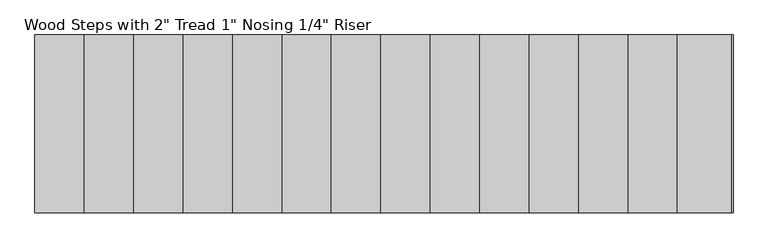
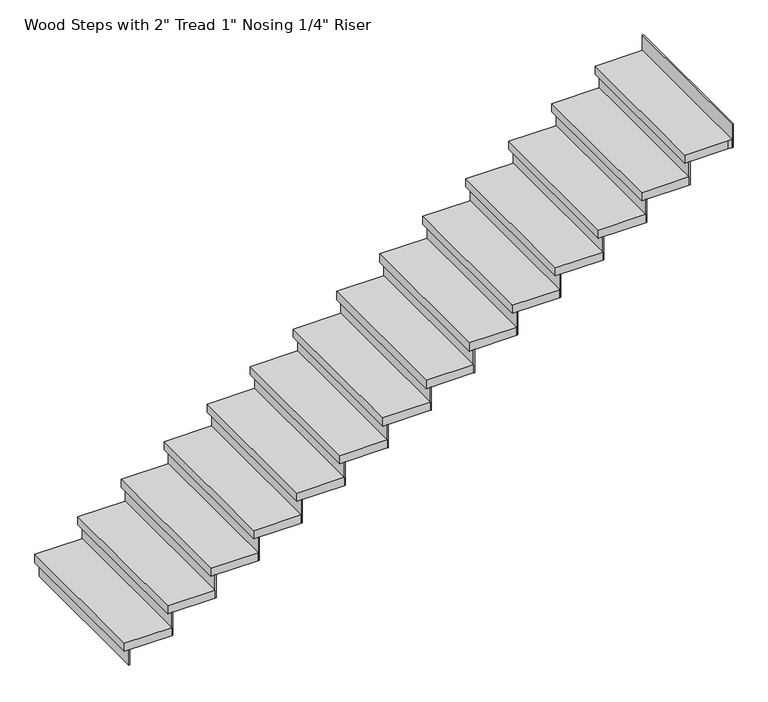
"""IFC4 building model written with IfcOpenShell, lengths in millimetres: stair flight geometry."""

from ifc_helpers import new_model, si_unit, frame, origin, origin_with_axes, place, context, project, spatial, polyline, outline, extrude, source, transform, mapped, element, save


def stair_flight_5bed9c42(model_context):
    return source(origin(), model_context, "Body", "SweptSolid", [
        extrude(outline(polyline([(-23935.3186345, 31477.9025717), (-23941.6686345, 31477.9025717), (-23941.6686345, 32392.3025717), (-23935.3186345, 32392.3025717), (-23935.3186345, 31477.9025717)])), origin_with_axes(), (0.0, 0.0, 1.0), 94.3428571),
        extrude(outline(polyline([(-23687.6686345, 32392.3025717), (-23687.6686345, 31477.9025717), (-23967.0686345, 31477.9025717), (-23967.0686345, 32392.3025717), (-23687.6686345, 32392.3025717)])), frame((0.0, 0.0, 94.3428571), z_axis=(0.0, 0.0, 1.0), x_axis=(1.0, 0.0, 0.0)), (0.0, 0.0, 1.0), 50.8),
        extrude(outline(polyline([(-23681.3186345, 31477.9025717), (-23687.6686345, 31477.9025717), (-23687.6686345, 32392.3025717), (-23681.3186345, 32392.3025717), (-23681.3186345, 31477.9025717)])), frame((0.0, 0.0, 94.3428571), z_axis=(0.0, 0.0, 1.0), x_axis=(1.0, 0.0, 0.0)), (0.0, 0.0, 1.0), 145.1428571),
        extrude(outline(polyline([(-23433.6686345, 32392.3025717), (-23433.6686345, 31477.9025717), (-23713.0686345, 31477.9025717), (-23713.0686345, 32392.3025717), (-23433.6686345, 32392.3025717)])), frame((0.0, 0.0, 239.4857143), z_axis=(0.0, 0.0, 1.0), x_axis=(1.0, 0.0, 0.0)), (0.0, 0.0, 1.0), 50.8),
        extrude(outline(polyline([(-23427.3186345, 31477.9025717), (-23433.6686345, 31477.9025717), (-23433.6686345, 32392.3025717), (-23427.3186345, 32392.3025717), (-23427.3186345, 31477.9025717)])), frame((0.0, 0.0, 239.4857143), z_axis=(0.0, 0.0, 1.0), x_axis=(1.0, 0.0, 0.0)), (0.0, 0.0, 1.0), 145.1428571),
        extrude(outline(polyline([(-23179.6686345, 32392.3025717), (-23179.6686345, 31477.9025717), (-23459.0686345, 31477.9025717), (-23459.0686345, 32392.3025717), (-23179.6686345, 32392.3025717)])), frame((0.0, 0.0, 384.6285714), z_axis=(0.0, 0.0, 1.0), x_axis=(1.0, 0.0, 0.0)), (0.0, 0.0, 1.0), 50.8),
        extrude(outline(polyline([(-23173.3186345, 31477.9025717), (-23179.6686345, 31477.9025717), (-23179.6686345, 32392.3025717), (-23173.3186345, 32392.3025717), (-23173.3186345, 31477.9025717)])), frame((0.0, 0.0, 384.6285714), z_axis=(0.0, 0.0, 1.0), x_axis=(1.0, 0.0, 0.0)), (0.0, 0.0, 1.0), 145.1428571),
        extrude(outline(polyline([(-22925.6686345, 32392.3025717), (-22925.6686345, 31477.9025717), (-23205.0686345, 31477.9025717), (-23205.0686345, 32392.3025717), (-22925.6686345, 32392.3025717)])), frame((0.0, 0.0, 529.7714286), z_axis=(0.0, 0.0, 1.0), x_axis=(1.0, 0.0, 0.0)), (0.0, 0.0, 1.0), 50.8),
        extrude(outline(polyline([(-22919.3186345, 31477.9025717), (-22925.6686345, 31477.9025717), (-22925.6686345, 32392.3025717), (-22919.3186345, 32392.3025717), (-22919.3186345, 31477.9025717)])), frame((0.0, 0.0, 529.7714286), z_axis=(0.0, 0.0, 1.0), x_axis=(1.0, 0.0, 0.0)), (0.0, 0.0, 1.0), 145.1428571),
        extrude(outline(polyline([(-22671.6686345, 32392.3025717), (-22671.6686345, 31477.9025717), (-22951.0686345, 31477.9025717), (-22951.0686345, 32392.3025717), (-22671.6686345, 32392.3025717)])), frame((0.0, 0.0, 674.9142857), z_axis=(0.0, 0.0, 1.0), x_axis=(1.0, 0.0, 0.0)), (0.0, 0.0, 1.0), 50.8),
        extrude(outline(polyline([(-22665.3186345, 31477.9025717), (-22671.6686345, 31477.9025717), (-22671.6686345, 32392.3025717), (-22665.3186345, 32392.3025717), (-22665.3186345, 31477.9025717)])), frame((0.0, 0.0, 674.9142857), z_axis=(0.0, 0.0, 1.0), x_axis=(1.0, 0.0, 0.0)), (0.0, 0.0, 1.0), 145.1428571),
        extrude(outline(polyline([(-22417.6686345, 32392.3025717), (-22417.6686345, 31477.9025717), (-22697.0686345, 31477.9025717), (-22697.0686345, 32392.3025717), (-22417.6686345, 32392.3025717)])), frame((0.0, 0.0, 820.0571429), z_axis=(0.0, 0.0, 1.0), x_axis=(1.0, 0.0, 0.0)), (0.0, 0.0, 1.0), 50.8),
        extrude(outline(polyline([(-22411.3186345, 31477.9025717), (-22417.6686345, 31477.9025717), (-22417.6686345, 32392.3025717), (-22411.3186345, 32392.3025717), (-22411.3186345, 31477.9025717)])), frame((0.0, 0.0, 820.0571429), z_axis=(0.0, 0.0, 1.0), x_axis=(1.0, 0.0, 0.0)), (0.0, 0.0, 1.0), 145.1428571),
        extrude(outline(polyline([(-22163.6686345, 32392.3025717), (-22163.6686345, 31477.9025717), (-22443.0686345, 31477.9025717), (-22443.0686345, 32392.3025717), (-22163.6686345, 32392.3025717)])), frame((0.0, 0.0, 965.2), z_axis=(0.0, 0.0, 1.0), x_axis=(1.0, 0.0, 0.0)), (0.0, 0.0, 1.0), 50.8),
        extrude(outline(polyline([(-22157.3186345, 31477.9025717), (-22163.6686345, 31477.9025717), (-22163.6686345, 32392.3025717), (-22157.3186345, 32392.3025717), (-22157.3186345, 31477.9025717)])), frame((0.0, 0.0, 965.2), z_axis=(0.0, 0.0, 1.0), x_axis=(1.0, 0.0, 0.0)), (0.0, 0.0, 1.0), 145.1428571),
        extrude(outline(polyline([(-21909.6686345, 32392.3025717), (-21909.6686345, 31477.9025717), (-22189.0686345, 31477.9025717), (-22189.0686345, 32392.3025717), (-21909.6686345, 32392.3025717)])), frame((0.0, 0.0, 1110.3428571), z_axis=(0.0, 0.0, 1.0), x_axis=(1.0, 0.0, 0.0)), (0.0, 0.0, 1.0), 50.8),
        extrude(outline(polyline([(-21903.3186345, 31477.9025717), (-21909.6686345, 31477.9025717), (-21909.6686345, 32392.3025717), (-21903.3186345, 32392.3025717), (-21903.3186345, 31477.9025717)])), frame((0.0, 0.0, 1110.3428571), z_axis=(0.0, 0.0, 1.0), x_axis=(1.0, 0.0, 0.0)), (0.0, 0.0, 1.0), 145.1428571),
        extrude(outline(polyline([(-21655.6686345, 32392.3025717), (-21655.6686345, 31477.9025717), (-21935.0686345, 31477.9025717), (-21935.0686345, 32392.3025717), (-21655.6686345, 32392.3025717)])), frame((0.0, 0.0, 1255.4857143), z_axis=(0.0, 0.0, 1.0), x_axis=(1.0, 0.0, 0.0)), (0.0, 0.0, 1.0), 50.8),
        extrude(outline(polyline([(-21649.3186345, 31477.9025717), (-21655.6686345, 31477.9025717), (-21655.6686345, 32392.3025717), (-21649.3186345, 32392.3025717), (-21649.3186345, 31477.9025717)])), frame((0.0, 0.0, 1255.4857143), z_axis=(0.0, 0.0, 1.0), x_axis=(1.0, 0.0, 0.0)), (0.0, 0.0, 1.0), 145.1428571),
        extrude(outline(polyline([(-21401.6686345, 32392.3025717), (-21401.6686345, 31477.9025717), (-21681.0686345, 31477.9025717), (-21681.0686345, 32392.3025717), (-21401.6686345, 32392.3025717)])), frame((0.0, 0.0, 1400.6285714), z_axis=(0.0, 0.0, 1.0), x_axis=(1.0, 0.0, 0.0)), (0.0, 0.0, 1.0), 50.8),
        extrude(outline(polyline([(-21395.3186345, 31477.9025717), (-21401.6686345, 31477.9025717), (-21401.6686345, 32392.3025717), (-21395.3186345, 32392.3025717), (-21395.3186345, 31477.9025717)])), frame((0.0, 0.0, 1400.6285714), z_axis=(0.0, 0.0, 1.0), x_axis=(1.0, 0.0, 0.0)), (0.0, 0.0, 1.0), 145.1428571),
        extrude(outline(polyline([(-21147.6686345, 32392.3025717), (-21147.6686345, 31477.9025717), (-21427.0686345, 31477.9025717), (-21427.0686345, 32392.3025717), (-21147.6686345, 32392.3025717)])), frame((0.0, 0.0, 1545.7714286), z_axis=(0.0, 0.0, 1.0), x_axis=(1.0, 0.0, 0.0)), (0.0, 0.0, 1.0), 50.8),
        extrude(outline(polyline([(-21141.3186345, 31477.9025717), (-21147.6686345, 31477.9025717), (-21147.6686345, 32392.3025717), (-21141.3186345, 32392.3025717), (-21141.3186345, 31477.9025717)])), frame((0.0, 0.0, 1545.7714286), z_axis=(0.0, 0.0, 1.0), x_axis=(1.0, 0.0, 0.0)), (0.0, 0.0, 1.0), 145.1428571),
        extrude(outline(polyline([(-20893.6686345, 32392.3025717), (-20893.6686345, 31477.9025717), (-21173.0686345, 31477.9025717), (-21173.0686345, 32392.3025717), (-20893.6686345, 32392.3025717)])), frame((0.0, 0.0, 1690.9142857), z_axis=(0.0, 0.0, 1.0), x_axis=(1.0, 0.0, 0.0)), (0.0, 0.0, 1.0), 50.8),
        extrude(outline(polyline([(-20887.3186345, 31477.9025717), (-20893.6686345, 31477.9025717), (-20893.6686345, 32392.3025717), (-20887.3186345, 32392.3025717), (-20887.3186345, 31477.9025717)])), frame((0.0, 0.0, 1690.9142857), z_axis=(0.0, 0.0, 1.0), x_axis=(1.0, 0.0, 0.0)), (0.0, 0.0, 1.0), 145.1428571),
        extrude(outline(polyline([(-20639.6686345, 32392.3025717), (-20639.6686345, 31477.9025717), (-20919.0686345, 31477.9025717), (-20919.0686345, 32392.3025717), (-20639.6686345, 32392.3025717)])), frame((0.0, 0.0, 1836.0571429), z_axis=(0.0, 0.0, 1.0), x_axis=(1.0, 0.0, 0.0)), (0.0, 0.0, 1.0), 50.8),
        extrude(outline(polyline([(-20379.3186345, 31477.9025717), (-20385.6686345, 31477.9025717), (-20385.6686345, 32392.3025717), (-20379.3186345, 32392.3025717), (-20379.3186345, 31477.9025717)])), frame((0.0, 0.0, 1981.2), z_axis=(0.0, 0.0, 1.0), x_axis=(1.0, 0.0, 0.0)), (0.0, 0.0, 1.0), 145.1428571),
        extrude(outline(polyline([(-20633.3186345, 31477.9025717), (-20639.6686345, 31477.9025717), (-20639.6686345, 32392.3025717), (-20633.3186345, 32392.3025717), (-20633.3186345, 31477.9025717)])), frame((0.0, 0.0, 1836.0571429), z_axis=(0.0, 0.0, 1.0), x_axis=(1.0, 0.0, 0.0)), (0.0, 0.0, 1.0), 145.1428571),
        extrude(outline(polyline([(-20385.6686345, 32392.3025717), (-20385.6686345, 31477.9025717), (-20411.0686345, 31477.9025717), (-20665.0686345, 31477.9025717), (-20665.0686345, 32392.3025717), (-20411.0686345, 32392.3025717), (-20385.6686345, 32392.3025717)])), frame((0.0, 0.0, 1981.2), z_axis=(0.0, 0.0, 1.0), x_axis=(1.0, 0.0, 0.0)), (0.0, 0.0, 1.0), 50.8),
    ])


if __name__ == "__main__":
    model = new_model("IFC4")
    model_context = context("Model", 3, world=origin())
    ifc_project = project(units=[si_unit("LENGTHUNIT", "METRE", prefix="MILLI")], contexts=[model_context])
    site = spatial("IfcSite", under=ifc_project)
    building = spatial("IfcBuilding", under=site)
    placement = place(None, origin())
    stair_flight_shape = stair_flight_5bed9c42(model_context)
    element("IfcStairFlight", 1, ObjectType="Wood Steps with 2\" Tread 1\" Nosing 1/4\" Riser", at=placement, inside=building, context=model_context, shape_type="MappedRepresentation", body=[
        mapped(stair_flight_shape, transform((0.0, 0.0, 0.0), x_axis=(1.0, 0.0, 0.0), y_axis=(0.0, 1.0, 0.0), z_axis=(0.0, 0.0, 1.0))),
    ])
    save(model, "model.ifc")
